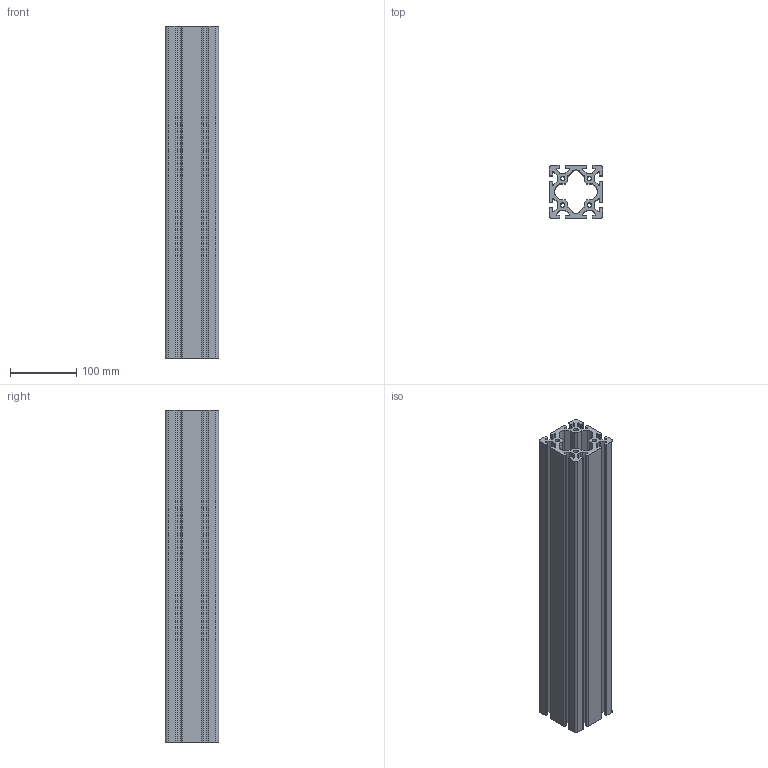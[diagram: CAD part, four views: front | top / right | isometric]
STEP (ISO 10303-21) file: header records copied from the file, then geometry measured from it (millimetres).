
FILE_DESCRIPTION (( 'STEP AP203' ), '1' );
FILE_NAME ('M ATP I8 8080.STEP', '2012-06-04T08:57:19', ( 'alle' ), ( 'Hewlett-Packard Company' ), 'SwSTEP 2.0', 'SolidWorks 2011', '' );
FILE_SCHEMA (( 'CONFIG_CONTROL_DESIGN' ));
Length unit declared in the file: millimetre
Products named in the file (1): M ATP I8 8080
Bounding box: 80 x 80 x 500 mm (x, y, z)
Volume: 1330637.3 mm3; surface area: 460469.6 mm2
Topology: 1 solids, 1 shells, 191 faces, 567 edges, 378 vertices
Faces by surface type: cylinder 117, plane 74
Entity records: 6592 total; most frequent: DIRECTION 1185, CARTESIAN_POINT 1137, ORIENTED_EDGE 1134, EDGE_CURVE 567, AXIS2_PLACEMENT_3D 426, VERTEX_POINT 378, LINE 333, VECTOR 333
